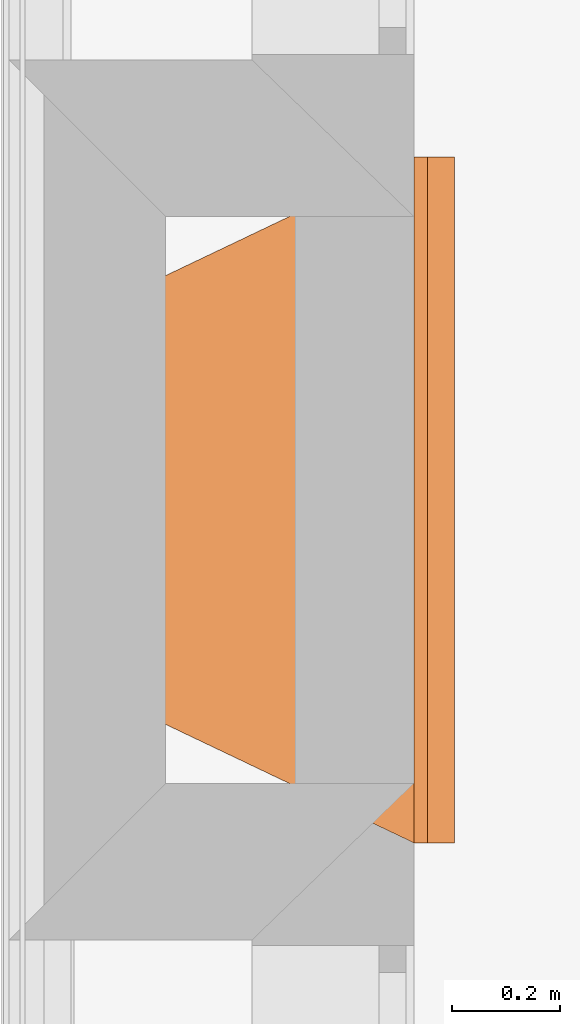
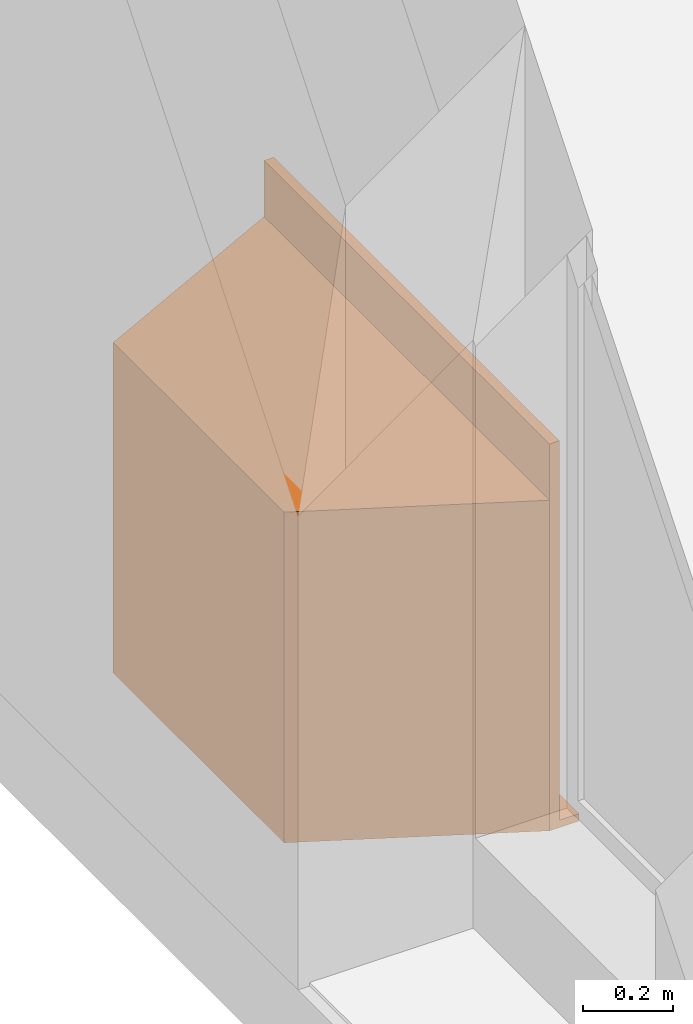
# One storey, part 26 of 26: 1 proxy.
"""IFC2X3 building model written with IfcOpenShell, lengths in millimetres."""

from ifc_helpers import new_model, entity, si_unit, converted_unit, money_unit, direction, frame, origin_with_axes, place, context, subcontext, project, spatial, open_shell, faceted_brep, surface_model, material, type_object, element, save


model = new_model("IFC2X3")

# Units and contexts
model_context = context("Model", 3, precision=1e-05, world=origin_with_axes(), true_north=direction((0.0, 1.0)))
body_context = subcontext(model_context, "Body", "Model", "MODEL_VIEW")
ifc_project = project(units=[si_unit("LENGTHUNIT", "METRE", prefix="MILLI"), si_unit("AREAUNIT", "SQUARE_METRE"), si_unit("VOLUMEUNIT", "CUBIC_METRE"), converted_unit("PLANEANGLEUNIT", "DEGREE", entity("IfcPlaneAngleMeasure", 0.0174532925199), si_unit("PLANEANGLEUNIT", "RADIAN"), dimensions=[0, 0, 0, 0, 0, 0, 0]), si_unit("SOLIDANGLEUNIT", "STERADIAN"), money_unit("USD"), converted_unit("TIMEUNIT", "Year", entity("IfcTimeMeasure", 31556926.0), si_unit("TIMEUNIT", "SECOND"), dimensions=[0, 0, 0, 0, 0, 0, 0]), si_unit("MASSUNIT", "GRAM"), si_unit("THERMODYNAMICTEMPERATUREUNIT", "DEGREE_CELSIUS"), si_unit("LUMINOUSINTENSITYUNIT", "LUMEN")], contexts=[model_context])

# Site, building, storey
site_placement = place(None, origin_with_axes())
site = spatial("IfcSite", under=ifc_project, at=site_placement, Name="Grove Residential", CompositionType="ELEMENT")
building_placement = place(site_placement, origin_with_axes())
building = spatial("IfcBuilding", under=site, at=building_placement, Name="Building", CompositionType="ELEMENT")
storey_placement = place(building_placement, origin_with_axes())
storey = spatial("IfcBuildingStorey", under=building, at=storey_placement, Name="Ground Floor", CompositionType="ELEMENT", Elevation=0.0)

# Proxy
ifc_material = material(Name="Background")
building_element_proxy_type = type_object("IfcBuildingElementProxyType", Name="Fireplace-Traditional 21", PredefinedType="NOTDEFINED")
proxy_placement = place(storey_placement, frame((775.4, 15290.0, 0.0), z_axis=(0.0, 0.0, 1.0), x_axis=(0.0, 1.0, 0.0)))
element("IfcBuildingElementProxy", 1, at=proxy_placement, inside=storey, type_object=building_element_proxy_type, material=ifc_material, Name="FU - 004", context=body_context, shape_type="SurfaceModel", body=[
    faceted_brep([(0.0, 0.0, 0.0), (1270.0, 0.0, 0.0), (1270.0, 0.0, 45.4), (0.0, 0.0, 45.4), (0.0, 25.4, 0.0), (1270.0, 25.4, 0.0), (1270.0, 25.4, 45.4), (0.0, 25.4, 45.4)], [[[0, 1, 2, 3]], [[0, 4, 5, 1]], [[1, 5, 6, 2]], [[3, 2, 6, 7]], [[4, 0, 3, 7]], [[5, 4, 7, 6]]]),
    faceted_brep([(0.0, 0.0, 655.0), (1270.0, 0.0, 655.0), (1270.0, 0.0, 1050.0), (0.0, 0.0, 1050.0), (0.0, 25.4, 655.0), (1270.0, 25.4, 655.0), (1270.0, 25.4, 1050.0), (0.0, 25.4, 1050.0)], [[[0, 1, 2, 3]], [[0, 4, 5, 1]], [[1, 5, 6, 2]], [[3, 2, 6, 7]], [[4, 0, 3, 7]], [[5, 4, 7, 6]]]),
    faceted_brep([(177.5, 0.0, 45.4), (0.0, 0.0, 45.4), (0.0, 25.4, 45.4), (177.5, 25.4, 45.4), (177.5, 0.0, 655.0), (0.0, 0.0, 655.0), (0.0, 25.4, 655.0), (177.5, 25.4, 655.0)], [[[0, 1, 2, 3]], [[1, 0, 4, 5]], [[2, 1, 5, 6]], [[3, 2, 6, 7]], [[0, 3, 7, 4]], [[5, 4, 7, 6]]]),
    faceted_brep([(1270.0, 0.0, 45.4), (1092.5, 0.0, 45.4), (1092.5, 25.4, 45.4), (1270.0, 25.4, 45.4), (1270.0, 0.0, 655.0), (1092.5, 0.0, 655.0), (1092.5, 25.4, 655.0), (1270.0, 25.4, 655.0)], [[[0, 1, 2, 3]], [[1, 0, 4, 5]], [[2, 1, 5, 6]], [[3, 2, 6, 7]], [[0, 3, 7, 4]], [[5, 4, 7, 6]]]),
    faceted_brep([(271.025966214, 534.6, 0.0), (998.974033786, 534.6, 0.0), (998.974033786, 534.6, 897.6), (271.025966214, 534.6, 897.6), (28.1415666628, 25.4, 0.0), (0.0, 25.4, 0.0), (255.0, 560.0, 0.0), (1015.0, 560.0, 0.0), (1270.0, 25.4, 0.0), (1241.85843334, 25.4, 0.0), (1241.85843334, 25.4, 897.6), (1270.0, 25.4, 897.6), (1015.0, 560.0, 897.6), (255.0, 560.0, 897.6), (0.0, 25.4, 897.6), (28.1415666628, 25.4, 897.6)], [[[0, 1, 2, 3]], [[0, 4, 5, 6, 7, 8, 9, 1]], [[1, 9, 10, 2]], [[3, 2, 10, 11, 12, 13, 14, 15]], [[4, 0, 3, 15]], [[5, 4, 15, 14]], [[6, 5, 14, 13]], [[7, 6, 13, 12]], [[8, 7, 12, 11]], [[9, 8, 11, 10]]]),
    faceted_brep([(28.1415666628, 25.4, 0.0), (1241.85843334, 25.4, 0.0), (1241.85843334, 25.4, 20.0), (28.1415666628, 25.4, 20.0), (271.025966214, 534.6, 0.0), (998.974033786, 534.6, 0.0), (998.974033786, 534.6, 20.0), (271.025966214, 534.6, 20.0)], [[[0, 1, 2, 3]], [[0, 4, 5, 1]], [[1, 5, 6, 2]], [[3, 2, 6, 7]], [[4, 0, 3, 7]], [[5, 4, 7, 6]]]),
    faceted_brep([(28.1415666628, 25.4, 680.4), (1241.85843334, 25.4, 680.4), (1241.85843334, 25.4, 897.6), (28.1415666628, 25.4, 897.6), (271.025966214, 534.6, 680.4), (998.974033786, 534.6, 680.4), (998.974033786, 534.6, 897.6), (271.025966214, 534.6, 897.6)], [[[0, 1, 2, 3]], [[0, 4, 5, 1]], [[1, 5, 6, 2]], [[3, 2, 6, 7]], [[4, 0, 3, 7]], [[5, 4, 7, 6]]]),
    faceted_brep([(28.1415666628, 25.4, 20.0), (83.5383514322, 25.4, 20.0), (83.5383514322, 25.4, 680.4), (28.1415666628, 25.4, 680.4), (271.025966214, 534.6, 20.0), (998.974033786, 534.6, 20.0), (1241.85843334, 25.4, 20.0), (1186.46164857, 25.4, 20.0), (967.4268562, 484.6, 20.0), (302.5731438, 484.6, 20.0), (302.5731438, 484.6, 680.4), (967.4268562, 484.6, 680.4), (1186.46164857, 25.4, 680.4), (1241.85843334, 25.4, 680.4), (998.974033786, 534.6, 680.4), (271.025966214, 534.6, 680.4)], [[[0, 1, 2, 3]], [[0, 4, 5, 6, 7, 8, 9, 1]], [[1, 9, 10, 2]], [[3, 2, 10, 11, 12, 13, 14, 15]], [[4, 0, 3, 15]], [[5, 4, 15, 14]], [[6, 5, 14, 13]], [[7, 6, 13, 12]], [[8, 7, 12, 11]], [[9, 8, 11, 10]]]),
    faceted_brep([(83.5383514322, 25.4, 20.0), (152.1, 25.4, 20.0), (152.1, 25.4, 680.4), (83.5383514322, 25.4, 680.4), (107.387958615, 75.4, 20.0), (152.1, 75.4, 20.0), (152.1, 75.4, 680.4), (107.387958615, 75.4, 680.4)], [[[0, 1, 2, 3]], [[0, 4, 5, 1]], [[1, 5, 6, 2]], [[3, 2, 6, 7]], [[4, 0, 3, 7]], [[5, 4, 7, 6]]]),
    faceted_brep([(1162.61204138, 75.4, 20.0), (1117.9, 75.4, 20.0), (1117.9, 75.4, 680.4), (1162.61204138, 75.4, 680.4), (1186.46164857, 25.4, 20.0), (1117.9, 25.4, 20.0), (1117.9, 25.4, 680.4), (1186.46164857, 25.4, 680.4)], [[[0, 1, 2, 3]], [[0, 4, 5, 1]], [[1, 5, 6, 2]], [[3, 2, 6, 7]], [[4, 0, 3, 7]], [[5, 4, 7, 6]]]),
    faceted_brep([(0.0, 0.0, 0.0), (0.0, -50.0, 0.0), (0.0, -50.0, 20.0), (0.0, 0.0, 20.0), (1270.0, 0.0, 0.0), (1270.0, -50.0, 0.0), (1270.0, -50.0, 20.0), (1270.0, 0.0, 20.0)], [[[0, 1, 2, 3]], [[0, 4, 5, 1]], [[1, 5, 6, 2]], [[3, 2, 6, 7]], [[4, 0, 3, 7]], [[5, 4, 7, 6]]]),
    faceted_brep([(279.1, 19.05, 45.4), (177.5, 19.05, 45.4), (177.5, 25.4, 45.4), (279.1, 25.4, 45.4), (279.1, 19.05, 655.0), (177.5, 19.05, 655.0), (177.5, 25.4, 655.0), (279.1, 25.4, 655.0)], [[[0, 1, 2, 3]], [[1, 0, 4, 5]], [[2, 1, 5, 6]], [[3, 2, 6, 7]], [[0, 3, 7, 4]], [[5, 4, 7, 6]]]),
    faceted_brep([(1092.5, 19.05, 45.4), (990.9, 19.05, 45.4), (990.9, 25.4, 45.4), (1092.5, 25.4, 45.4), (1092.5, 19.05, 655.0), (990.9, 19.05, 655.0), (990.9, 25.4, 655.0), (1092.5, 25.4, 655.0)], [[[0, 1, 2, 3]], [[1, 0, 4, 5]], [[2, 1, 5, 6]], [[3, 2, 6, 7]], [[0, 3, 7, 4]], [[5, 4, 7, 6]]]),
    surface_model("IfcShellBasedSurfaceModel", [(107.387958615, 75.4, 20.0), (1162.61204138, 75.4, 20.0), (1162.61204138, 75.4, 680.4), (107.387958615, 75.4, 680.4)], [open_shell([[[0, 1, 2, 3]]])]),
    surface_model("IfcShellBasedSurfaceModel", [(107.387958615, 85.4, 20.0), (1162.61204138, 85.4, 20.0), (1162.61204138, 85.4, 680.4), (107.387958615, 85.4, 680.4)], [open_shell([[[0, 1, 2, 3]]])]),
])

save(model, "model.ifc")
